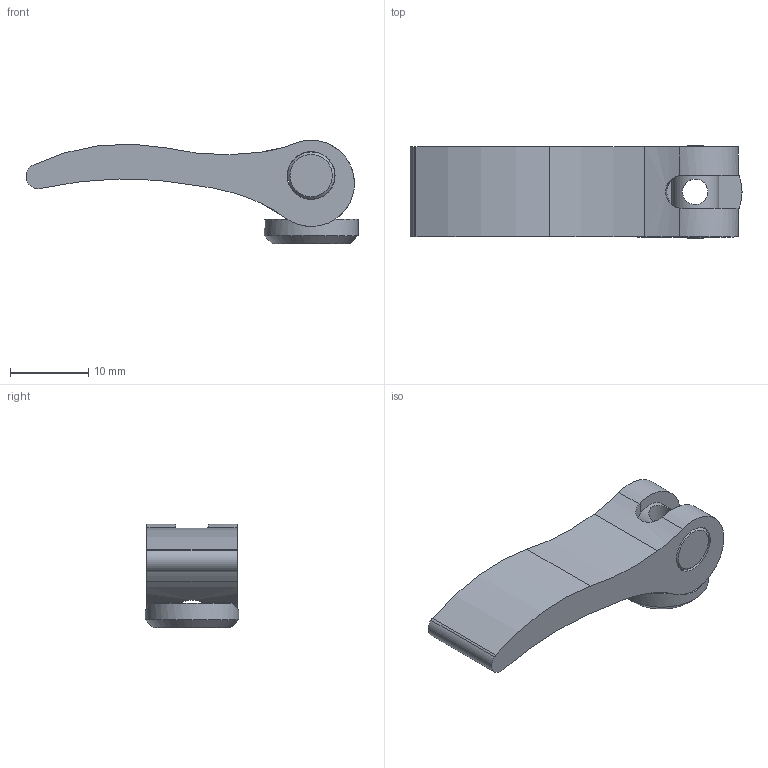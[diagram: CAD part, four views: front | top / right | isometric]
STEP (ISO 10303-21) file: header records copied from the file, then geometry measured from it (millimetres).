
FILE_DESCRIPTION(('STEP AP203'), '1');
FILE_NAME('À00360.11420400 _ Ýêñöåíòðèê 42 ìì', '', ('UNSPECIFIED'), ('UNSPECIFIED'), 'C3D Converter', 'C3D Toolkit', '');
FILE_SCHEMA(('CONFIG_CONTROL_DESIGN'));
Length unit declared in the file: millimetre
Products named in the file (4): А00360.42.03; А00360.42.02; А00360.42.01
Assembly tree (3 placements, depth 2):
  (unnamed)
    А00360.42.03
    А00360.42.02
    А00360.42.01
Bounding box: 42.36 x 11.94 x 13.2 mm (x, y, z)
Volume: 2669.1 mm3; surface area: 2286.9 mm2
Topology: 3 solids, 3 shells, 31 faces, 80 edges, 53 vertices
Faces by surface type: cylinder 19, plane 9, cone 3
Full cylindrical faces by diameter (mm): 3.242 x1, 4.5 x1, 6 x1, 6.1 x2, 11.94 x1
Entity records: 2060 total; most frequent: CARTESIAN_POINT 1066, DIRECTION 164, ORIENTED_EDGE 142, AXIS2_PLACEMENT_3D 73, EDGE_CURVE 71, VERTEX_POINT 53, EDGE_LOOP 46, CIRCLE 38
